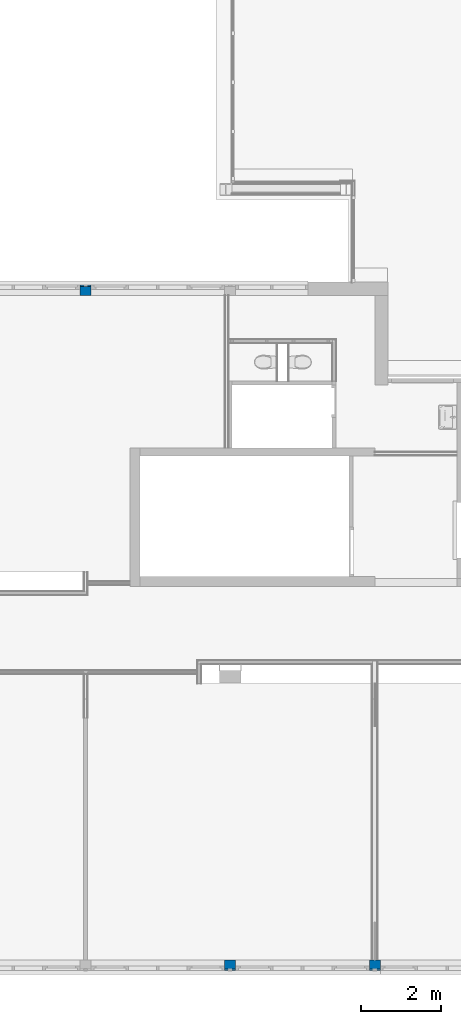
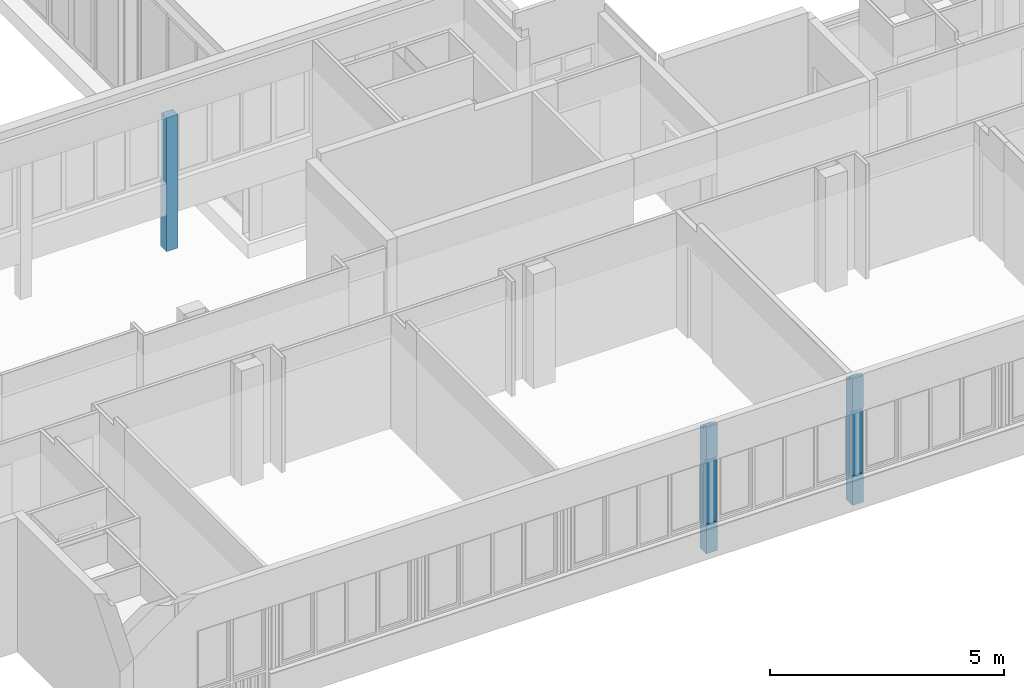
# One storey, part 40 of 99: 3 walls.
"""IFC2X3 building model written with IfcOpenShell, lengths in millimetres."""

import ifcopenshell
import ifcopenshell.guid

model = None  # the IFC model being written
_history = None  # IfcOwnerHistory: only IFC2X3 demands one
_inside = {}  # id of a spatial element -> (the spatial element, [elements in it])
_under = {}  # id of a project, library or spatial element -> (it, [spatial elements below it])
_declared = {}  # id of a project -> (the project, [libraries it declares])
_typed = {}  # id of a type object -> (the type object, [elements of that type])
_made_of = {}  # id of a material, layer set ... -> (it, [elements and type objects made of it])


def new_model(schema):
    """Start an empty IFC model of exactly this schema.

    Asked for "IFC4X3", IfcOpenShell would pick the latest addendum, in which some entities
    have other attributes; the version numbers below select the first issue.
    IFC2X3 requires an IfcOwnerHistory on every rooted entity: one is made here for all.
    """
    global model, _history
    if schema == "IFC4X3":
        model = ifcopenshell.file(schema_version=(4, 3, 0, 0))
    else:
        model = ifcopenshell.file(schema=schema)
    _inside.clear()
    _under.clear()
    _declared.clear()
    _typed.clear()
    _made_of.clear()
    _history = None
    if model.schema == "IFC2X3":
        org = make("IfcOrganization", Name="unknown")
        user = make(
            "IfcPersonAndOrganization",
            ThePerson=make("IfcPerson", FamilyName="unknown"),
            TheOrganization=org,
        )
        app = make(
            "IfcApplication",
            ApplicationDeveloper=org,
            Version="unknown",
            ApplicationFullName="unknown",
            ApplicationIdentifier="unknown",
        )
        _history = make(
            "IfcOwnerHistory",
            OwningUser=user,
            OwningApplication=app,
            ChangeAction="ADDED",
            CreationDate=0,
        )
    return model


def make(cls, **values):
    """One entity of the class cls with the attributes given. An attribute that is None is left unset."""
    return model.create_entity(
        cls, **{name: value for name, value in values.items() if value is not None}
    )


def entity(cls, *values):
    """Any entity or typed value of the class cls, its attributes in the order of the schema. None: left unset."""
    e = model.create_entity(cls)
    for i, value in enumerate(values):
        if value is not None:
            e[i] = value
    return e


def rooted(cls, **values):
    """An entity with a GlobalId (a new one), such as an element, a storey or a relation."""
    return make(cls, GlobalId=ifcopenshell.guid.new(), OwnerHistory=_history, **values)


def si_unit(unit_type, name, prefix=None):
    """IfcSIUnit, for example si_unit("LENGTHUNIT", "METRE", prefix="MILLI")."""
    return make("IfcSIUnit", UnitType=unit_type, Prefix=prefix, Name=name)


def converted_unit(unit_type, name, factor, base, dimensions=None, offset=None):
    """IfcConversionBasedUnit, such as the inch: factor (a typed value) times the base unit."""
    return make(
        "IfcConversionBasedUnit"
        if offset is None
        else "IfcConversionBasedUnitWithOffset",
        ConversionOffset=offset,
        Dimensions=None
        if dimensions is None
        else entity("IfcDimensionalExponents", *dimensions),
        UnitType=unit_type,
        Name=name,
        ConversionFactor=make(
            "IfcMeasureWithUnit", ValueComponent=factor, UnitComponent=base
        ),
    )


def derived_unit(unit_type, elements):
    """IfcDerivedUnit: a product of units, each with its exponent."""
    return make(
        "IfcDerivedUnit",
        Elements=[
            make("IfcDerivedUnitElement", Unit=unit, Exponent=power)
            for unit, power in elements
        ],
        UnitType=unit_type,
    )


def money_unit(currency):
    """IfcMonetaryUnit."""
    return make("IfcMonetaryUnit", Currency=currency)


def assignment(units):
    """IfcUnitAssignment: the units of a project."""
    return None if units is None else make("IfcUnitAssignment", Units=units)


def point(xyz):
    """IfcCartesianPoint."""
    return None if xyz is None else make("IfcCartesianPoint", Coordinates=xyz)


def direction(xyz):
    """IfcDirection."""
    return None if xyz is None else make("IfcDirection", DirectionRatios=xyz)


def frame(location, z_axis=None, x_axis=None):
    """IfcAxis2Placement3D, a coordinate frame: its origin and axes. An axis left out is left unset."""
    return make(
        "IfcAxis2Placement3D",
        Location=point(location),
        Axis=direction(z_axis),
        RefDirection=direction(x_axis),
    )


def origin_with_axes():
    """The frame at (0, 0, 0) with the z axis (0, 0, 1) and the x axis (1, 0, 0) written out."""
    return frame((0.0, 0.0, 0.0), z_axis=(0.0, 0.0, 1.0), x_axis=(1.0, 0.0, 0.0))


def place(relative_to, where):
    """IfcLocalPlacement: puts the frame where relative to a parent placement (None: the world)."""
    return make(
        "IfcLocalPlacement", PlacementRelTo=relative_to, RelativePlacement=where
    )


def context(
    kind, dimensions, precision=None, world=None, true_north=None, identifier=None
):
    """IfcGeometricRepresentationContext, for example the 3D "Model" context."""
    return make(
        "IfcGeometricRepresentationContext",
        ContextIdentifier=identifier,
        ContextType=kind,
        CoordinateSpaceDimension=dimensions,
        Precision=precision,
        WorldCoordinateSystem=world,
        TrueNorth=true_north,
    )


def subcontext(parent, identifier, kind, view, scale=None):
    """IfcGeometricRepresentationSubContext, for example "Body" below "Model"."""
    return make(
        "IfcGeometricRepresentationSubContext",
        ContextIdentifier=identifier,
        ContextType=kind,
        ParentContext=parent,
        TargetScale=scale,
        TargetView=view,
    )


def project(units=None, contexts=None):
    """IfcProject with its units and contexts."""
    return rooted(
        "IfcProject",
        Name="project",
        RepresentationContexts=contexts,
        UnitsInContext=assignment(units),
    )


def spatial(cls, under=None, at=None, **own):
    """A site, building, storey or space (cls), placed at a placement, below another one or the project."""
    s = rooted(cls, ObjectPlacement=at, **own)
    if under is not None:
        _under.setdefault(under.id(), (under, []))[1].append(s)
    return s


def faces_of(points, faces, orient=None, outer=None):
    """IfcFace entities. A face is a list of loops; a loop is a list of indices into points, from 0.

    orient and outer hold one flag for each loop. By default every Orientation is true, the
    first loop of a face is its IfcFaceOuterBound and the others are IfcFaceBound.
    """
    made = []
    for i, loops in enumerate(faces):
        bounds = []
        for j, loop in enumerate(loops):
            is_outer = j == 0 if outer is None else outer[i][j]
            bounds.append(
                make(
                    "IfcFaceOuterBound" if is_outer else "IfcFaceBound",
                    Bound=make("IfcPolyLoop", Polygon=[points[k] for k in loop]),
                    Orientation=True if orient is None else orient[i][j],
                )
            )
        made.append(make("IfcFace", Bounds=bounds))
    return made


def faceted_brep(points, faces, orient=None, outer=None, voids=None):
    """IfcFacetedBrep: a solid bounded by flat faces; with voids (closed shells), ...WithVoids."""
    shared = [point(p) for p in points]
    hull = make("IfcClosedShell", CfsFaces=faces_of(shared, faces, orient, outer))
    if voids is None:
        return make("IfcFacetedBrep", Outer=hull)
    return make(
        "IfcFacetedBrepWithVoids",
        Outer=hull,
        Voids=[
            make(cls, CfsFaces=faces_of(shared, fs, o, b)) for cls, fs, o, b in voids
        ],
    )


def shape(context_of_items, identifier, shape_type, items):
    """IfcShapeRepresentation: the items that make up one representation, for example the "Body"."""
    return make(
        "IfcShapeRepresentation",
        ContextOfItems=context_of_items,
        RepresentationIdentifier=identifier,
        RepresentationType=shape_type,
        Items=items,
    )


def material(Name=None, Category=None):
    """IfcMaterial."""
    return make("IfcMaterial", Name=Name, Category=Category)


def made_of(thing, what):
    """Note that an element or type object is made of a material, layer set ...; save() writes the relation."""
    if what is not None:
        _made_of.setdefault(what.id(), (what, []))[1].append(thing)
    return thing


def type_object(cls, material=None, **own):
    """A type object (cls), such as IfcWallType, which elements share."""
    return made_of(rooted(cls, **own), material)


def element(
    cls,
    number,
    at=None,
    inside=None,
    cuts=None,
    type_object=None,
    material=None,
    context=None,
    identifier="Body",
    shape_type=None,
    held_by="IfcProductDefinitionShape",
    body=None,
    shapes=None,
    **own,
):
    """One element of the class cls, such as IfcWall. Its Tag is "e" and its number.

    at: its placement. inside: the storey or other place that contains it. cuts: it is an
    opening in that element (IfcRelVoidsElement). A single representation is given by context,
    identifier, shape_type and body (its items); several are given by shapes. held_by: the class
    of the entity that holds the representations. save() writes the other relations.
    """
    e = rooted(cls, Tag="e%d" % number, ObjectPlacement=at, **own)
    if body is not None:
        shapes = [shape(context, identifier, shape_type, body)]
    if shapes is not None:
        e.Representation = make(held_by, Representations=shapes)
    if inside is not None:
        _inside.setdefault(inside.id(), (inside, []))[1].append(e)
    if cuts is not None:
        rooted(
            "IfcRelVoidsElement", RelatingBuildingElement=cuts, RelatedOpeningElement=e
        )
    if type_object is not None:
        _typed.setdefault(type_object.id(), (type_object, []))[1].append(e)
    return made_of(e, material)


def aggregate(whole, parts):
    """IfcRelAggregates: a whole, such as a stair, and the parts it consists of."""
    return rooted("IfcRelAggregates", RelatingObject=whole, RelatedObjects=parts)


def save(model, path):
    """Write the relations noted so far, then the file.

    IfcRelAggregates (storeys below a building ...), IfcRelContainedInSpatialStructure (elements
    in a storey), IfcRelDefinesByType, IfcRelAssociatesMaterial and IfcRelDeclares: one each for
    every whole, place, type object, material and project.
    """
    for whole, parts in _under.values():
        aggregate(whole, parts)
    for where, things in _inside.values():
        rooted(
            "IfcRelContainedInSpatialStructure",
            RelatedElements=things,
            RelatingStructure=where,
        )
    for kind, things in _typed.values():
        rooted("IfcRelDefinesByType", RelatedObjects=things, RelatingType=kind)
    for what, things in _made_of.values():
        rooted("IfcRelAssociatesMaterial", RelatedObjects=things, RelatingMaterial=what)
    for by, libraries in _declared.values():
        rooted("IfcRelDeclares", RelatingContext=by, RelatedDefinitions=libraries)
    model.write(path)


model = new_model("IFC2X3")

# Units and contexts
model_context = context("Model", 3, precision=0.01, world=origin_with_axes(), true_north=direction((0.0, 1.0)))
body_context = subcontext(model_context, "Body", "Model", "MODEL_VIEW")
ifc_project = project(units=[si_unit("LENGTHUNIT", "METRE", prefix="MILLI"), si_unit("AREAUNIT", "SQUARE_METRE"), si_unit("VOLUMEUNIT", "CUBIC_METRE"), converted_unit("PLANEANGLEUNIT", "DEGREE", entity("IfcPlaneAngleMeasure", 0.0174532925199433), si_unit("PLANEANGLEUNIT", "RADIAN"), dimensions=[0, 0, 0, 0, 0, 0, 0]), money_unit("EUR"), converted_unit("TIMEUNIT", "Year", entity("IfcTimeMeasure", 31557600.0), si_unit("TIMEUNIT", "SECOND"), dimensions=[0, 0, 1, 0, 0, 0, 0]), si_unit("MASSUNIT", "GRAM", prefix="KILO"), si_unit("THERMODYNAMICTEMPERATUREUNIT", "DEGREE_CELSIUS"), si_unit("LUMINOUSINTENSITYUNIT", "LUMEN"), si_unit("ENERGYUNIT", "JOULE", prefix="MEGA"), derived_unit("THERMALCONDUCTANCEUNIT", [(si_unit("POWERUNIT", "WATT"), 1), (si_unit("LENGTHUNIT", "METRE"), -1), (si_unit("THERMODYNAMICTEMPERATUREUNIT", "KELVIN"), -1)]), derived_unit("SPECIFICHEATCAPACITYUNIT", [(si_unit("ENERGYUNIT", "JOULE"), 1), (si_unit("MASSUNIT", "GRAM", prefix="KILO"), -1), (si_unit("THERMODYNAMICTEMPERATUREUNIT", "KELVIN"), -1)]), derived_unit("MASSDENSITYUNIT", [(si_unit("MASSUNIT", "GRAM", prefix="KILO"), 1), (si_unit("VOLUMEUNIT", "CUBIC_METRE"), -1)])], contexts=[model_context])

# Site, building, storey
site_placement = place(None, origin_with_axes())
site = spatial("IfcSite", under=ifc_project, at=site_placement, Name="Site", CompositionType="ELEMENT")
building_placement = place(site_placement, origin_with_axes())
building = spatial("IfcBuilding", under=site, at=building_placement, Name="Naam gebouw", CompositionType="ELEMENT")
storey_placement = place(building_placement, frame((0.0, 0.0, 7650.0), z_axis=(0.0, 0.0, 1.0), x_axis=(1.0, 0.0, 0.0)))
storey = spatial("IfcBuildingStorey", under=building, at=storey_placement, Name="2e verdieping N", CompositionType="ELEMENT", Elevation=7650.0)

# Walls
ifc_material = material(Name="ALG - GEVEL")
wall_type = type_object("IfcWallType", Name="ALG - GEVEL 260", PredefinedType="NOTDEFINED")
wall_1_placement = place(storey_placement, frame((17862.49726718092, 3185.65897170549, 0.0), z_axis=(0.0, 0.0, 1.0), x_axis=(1.0, 0.0, 0.0)))
element("IfcWall", 1, at=wall_1_placement, inside=storey, type_object=wall_type, material=ifc_material, Name="_Wand-x", context=body_context, shape_type="Brep", body=[
    faceted_brep([(275.0027328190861, 44.00973599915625, 2440.000000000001), (275.0027328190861, 0.009735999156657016, 2440.000000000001), (0.002732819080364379, 0.009735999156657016, 2440.000000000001), (0.002732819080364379, 44.00973599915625, 2440.000000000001), (275.0027328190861, 44.00973599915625, 737.6344147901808), (275.0027328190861, 7.000000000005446, 737.6344147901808), (274.9999999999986, 7.000000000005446, 736.8361337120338), (274.9999999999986, 0.0, 735.6018448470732), (274.9999999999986, 0.0, 0.0), (274.9999999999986, 260.0000000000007, 0.0), (274.9999999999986, 260.0000000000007, 3199.999999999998), (274.9999999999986, 110.2534533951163, 3199.999999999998), (274.9999999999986, 110.2534533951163, 3299.999999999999), (274.9999999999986, 0.0, 3299.999999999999), (0.0, 0.0, 3299.999999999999), (0.0, 7.000000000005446, 736.8361337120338), (0.002732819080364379, 7.000000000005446, 737.6344147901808), (0.002732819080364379, 44.00973599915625, 737.6344147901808), (0.0, 110.2534533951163, 3299.999999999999), (0.0, 110.2534533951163, 3199.999999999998), (0.0, 260.0000000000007, 3199.999999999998), (0.0, 260.0000000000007, 0.0), (0.0, 0.0, 0.0), (0.0, 0.0, 735.6018448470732)], [[[0, 1, 2, 3]], [[1, 0, 4, 5, 6, 7, 8, 9, 10, 11, 12, 13]], [[2, 1, 13, 14]], [[15, 16, 17, 3, 2, 14, 18, 19, 20, 21, 22, 23]], [[3, 17, 4, 0]], [[17, 16, 5, 4]], [[5, 16, 15, 6]], [[15, 23, 7, 6]], [[22, 8, 7, 23]], [[9, 8, 22, 21]], [[10, 9, 21, 20]], [[10, 20, 19, 11]], [[12, 11, 19, 18]], [[18, 14, 13, 12]]]),
])
wall_2_placement = place(storey_placement, frame((14262.50930923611, 3185.658971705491, 0.0), z_axis=(0.0, 0.0, 1.0), x_axis=(1.0, 0.0, 0.0)))
element("IfcWall", 2, at=wall_2_placement, inside=storey, type_object=wall_type, material=ifc_material, Name="_Wand-x", context=body_context, shape_type="Brep", body=[
    faceted_brep([(274.9906907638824, 44.00973599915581, 2440.000000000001), (274.9906907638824, 0.009735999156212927, 2440.000000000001), (-0.00930923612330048, 0.009735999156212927, 2440.000000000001), (-0.00930923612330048, 44.00973599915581, 2440.000000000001), (274.9906907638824, 44.00973599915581, 737.6344147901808), (274.9906907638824, 7.000000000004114, 737.6344147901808), (275.0000000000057, 7.000000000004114, 736.8361337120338), (275.0000000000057, 0.0, 735.6018448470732), (275.0000000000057, 0.0, 0.0), (275.0000000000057, 259.9999999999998, 0.0), (275.0000000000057, 259.9999999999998, 3199.999999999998), (275.0000000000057, 110.2534533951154, 3199.999999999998), (275.0000000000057, 110.2534533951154, 3299.999999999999), (275.0000000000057, 0.0, 3299.999999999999), (0.0, 0.0, 3299.999999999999), (0.0, 7.000000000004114, 736.8361337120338), (-0.00930923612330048, 7.000000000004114, 737.6344147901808), (-0.00930923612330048, 44.00973599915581, 737.6344147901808), (0.0, 110.2534533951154, 3299.999999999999), (0.0, 110.2534533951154, 3199.999999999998), (0.0, 259.9999999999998, 3199.999999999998), (0.0, 259.9999999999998, 0.0), (0.0, 0.0, 0.0), (0.0, 0.0, 735.6018448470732)], [[[0, 1, 2, 3]], [[1, 0, 4, 5, 6, 7, 8, 9, 10, 11, 12, 13]], [[2, 1, 13, 14]], [[15, 16, 17, 3, 2, 14, 18, 19, 20, 21, 22, 23]], [[3, 17, 4, 0]], [[17, 16, 5, 4]], [[5, 16, 15, 6]], [[15, 23, 7, 6]], [[22, 8, 7, 23]], [[9, 8, 22, 21]], [[10, 9, 21, 20]], [[10, 20, 19, 11]], [[12, 11, 19, 18]], [[18, 14, 13, 12]]]),
])
wall_3_placement = place(storey_placement, frame((10662.5, 20255.87591997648, -1057.31604435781), z_axis=(0.0, 0.0, 1.0), x_axis=(1.0, 0.0, 0.0)))
element("IfcWall", 3, at=wall_3_placement, inside=storey, type_object=wall_type, material=ifc_material, Name="_Wand-x", context=body_context, shape_type="Brep", body=[
    faceted_brep([(-0.001343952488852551, -0.001421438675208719, 1777.316044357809), (274.9986560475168, -0.001421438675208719, 1777.316044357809), (275.0000000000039, 0.0, 0.0), (0.0, 0.0, 0.0), (-0.001343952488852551, -44.00142143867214, 1777.316044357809), (274.9986560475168, -44.00142143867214, 1777.316044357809), (274.9986560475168, -44.00142143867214, 3497.316044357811), (275.0000000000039, -260.0000000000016, 3497.316044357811), (275.0000000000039, -260.0000000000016, 1057.31604435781), (275.0000000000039, -259.9634948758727, 1057.31604435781), (275.0000000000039, -259.9634948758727, 757.3160443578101), (275.0000000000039, -260.0000000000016, 757.3160443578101), (275.0000000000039, -260.0000000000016, 0.0), (0.0, -260.0000000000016, 0.0), (-0.001343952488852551, -44.00142143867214, 3497.316044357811), (0.0, -260.0000000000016, 757.3160443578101), (0.0, -259.9634948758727, 757.3160443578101), (0.0, -259.9634948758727, 1057.31604435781), (0.0, -260.0000000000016, 1057.31604435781), (0.0, -260.0000000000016, 3497.316044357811)], [[[0, 1, 2, 3]], [[0, 4, 5, 1]], [[1, 5, 6, 7, 8, 9, 10, 11, 12, 2]], [[2, 12, 13, 3]], [[14, 4, 0, 3, 13, 15, 16, 17, 18, 19]], [[4, 14, 6, 5]], [[6, 14, 19, 7]], [[8, 7, 19, 18]], [[8, 18, 17, 9]], [[9, 17, 16, 10]], [[10, 16, 15, 11]], [[15, 13, 12, 11]]]),
])

save(model, "model.ifc")
